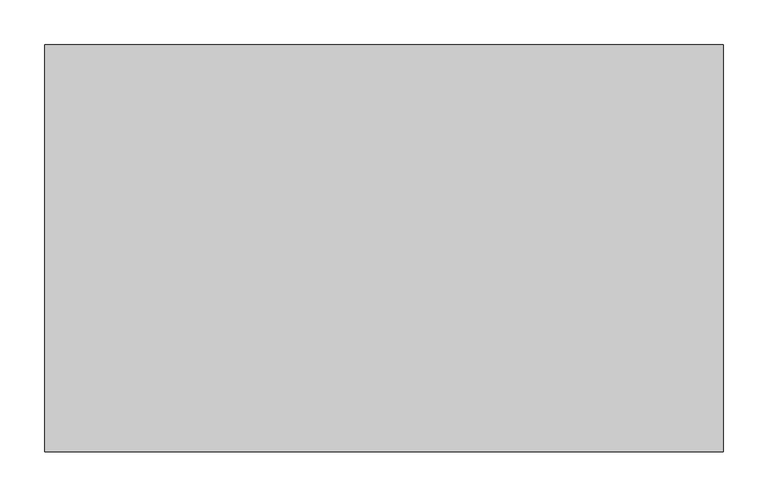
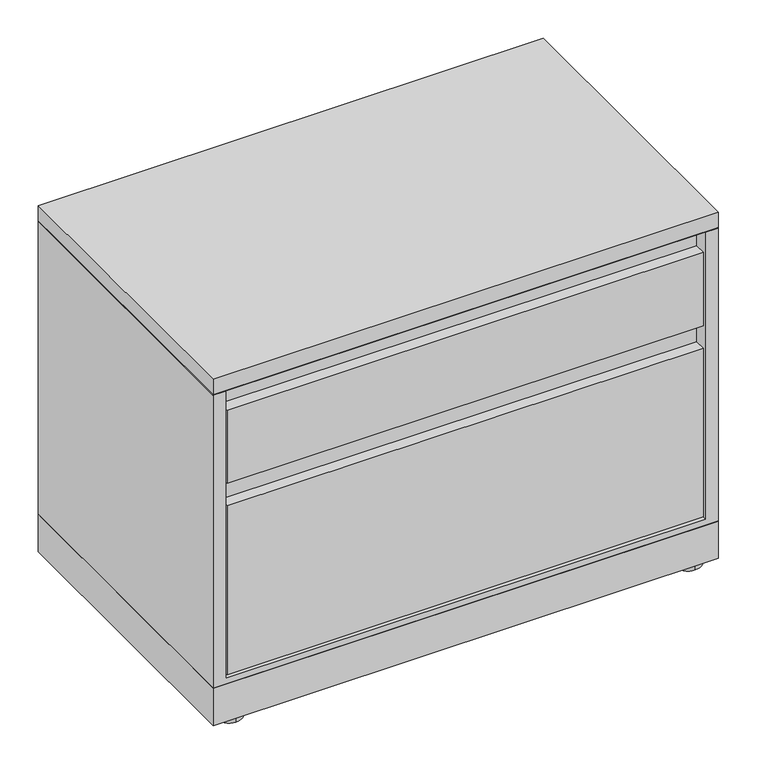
"""IFC4 building model written with IfcOpenShell, lengths in millimetres: furniture geometry, Steelcase - Universal Storage - Lateral File - 1.5 High - Flush Steel : Drawer/Drawer - 18D x 30W."""

from ifc_helpers import new_model, si_unit, point, frame, frame_2d, origin, origin_with_axes, place, context, project, spatial, polyline, circle_curve, trimmed, segment, composite_curve, outline, extrude, faceted_brep, source, transform, mapped, element, save


def furniture_6bb9b847(model_context):
    return source(origin(), model_context, "Body", "SolidModel", [
        extrude(outline(polyline([(762.0, 457.2), (762.0, 0.0), (0.0, 0.0), (0.0, 457.2), (762.0, 457.2)])), frame((0.0, 0.0, 6.3500002), z_axis=(0.0, 0.0, 1.0), x_axis=(1.0, 0.0, 0.0)), (0.0, 0.0, 1.0), 59.6899998),
        extrude(outline(composite_curve([segment(trimmed(circle_curve(frame_2d((727.3290058, 434.8633666)), 20.32), [point((727.3290058, 414.5433666))], [point((727.3290058, 455.1833666))], False, "CARTESIAN"), True, "CONTINUOUS"), segment(trimmed(circle_curve(frame_2d((727.3290058, 434.8633666)), 20.32), [point((727.3290058, 455.1833666))], [point((727.3290058, 414.5433666))], False, "CARTESIAN"), True, "CONTINUOUS")], self_intersect=False)), origin_with_axes(), (0.0, 0.0, 1.0), 6.3500002),
        extrude(outline(composite_curve([segment(trimmed(circle_curve(frame_2d((727.3290058, 20.7491455)), 20.32), [point((727.3290058, 0.4291455))], [point((727.3290058, 41.0691455))], False, "CARTESIAN"), True, "CONTINUOUS"), segment(trimmed(circle_curve(frame_2d((727.3290058, 20.7491455)), 20.32), [point((727.3290058, 41.0691455))], [point((727.3290058, 0.4291455))], False, "CARTESIAN"), True, "CONTINUOUS")], self_intersect=False)), origin_with_axes(), (0.0, 0.0, 1.0), 6.3500002),
        extrude(outline(composite_curve([segment(trimmed(circle_curve(frame_2d((34.29, 434.8633666)), 20.32), [point((34.29, 455.1833666))], [point((34.29, 414.5433666))], False, "CARTESIAN"), True, "CONTINUOUS"), segment(trimmed(circle_curve(frame_2d((34.29, 434.8633666)), 20.32), [point((34.29, 414.5433666))], [point((34.29, 455.1833666))], False, "CARTESIAN"), True, "CONTINUOUS")], self_intersect=False)), origin_with_axes(), (0.0, 0.0, 1.0), 6.3500002),
        extrude(outline(composite_curve([segment(trimmed(circle_curve(frame_2d((34.29, 20.7491455)), 20.32), [point((34.29, 41.0691455))], [point((34.29, 0.4291455))], False, "CARTESIAN"), True, "CONTINUOUS"), segment(trimmed(circle_curve(frame_2d((34.29, 20.7491455)), 20.32), [point((34.29, 0.4291455))], [point((34.29, 41.0691455))], False, "CARTESIAN"), True, "CONTINUOUS")], self_intersect=False)), origin_with_axes(), (0.0, 0.0, 1.0), 6.3500002),
        extrude(outline(polyline([(437.7944128, 396.7988176), (437.7944128, 410.7687861), (440.969412, 410.7687861), (440.969412, 371.5257963), (26.822418, 371.5257963), (26.822418, 396.7988176), (437.7944128, 396.7988176)])), frame((22.0472, 0.0, 0.0), z_axis=(1.0, 0.0, 0.0), x_axis=(0.0, 1.0, 0.0)), (0.0, 0.0, 1.0), 717.9056),
        extrude(outline(polyline([(1.45e-05, 534.0350121), (457.2, 534.0350121), (456.4379879, 533.273), (0.7620266, 533.273), (1.45e-05, 534.0350121)])), frame((0.0, 0.0, 0.0), z_axis=(1.0, 0.0, 0.0), x_axis=(0.0, 1.0, 0.0)), (0.0, 0.0, 1.0), 762.0),
        extrude(outline(polyline([(762.0, 457.2), (762.0, 0.0), (0.0, 0.0), (0.0, 457.2), (762.0, 457.2)])), frame((0.0, 0.0, 534.0350121), z_axis=(0.0, 0.0, 1.0), x_axis=(1.0, 0.0, 0.0)), (0.0, 0.0, 1.0), 24.6379729),
        faceted_brep([(762.0, 0.0, 66.04), (762.0, 457.2, 66.04), (762.0, 457.2, 533.273), (762.0, 0.0, 533.273), (0.0, 0.0, 533.273), (0.0, 457.2, 533.273), (0.0, 457.2, 66.04), (0.0, 0.0, 66.04), (742.95, 0.0, 533.273), (742.95, 0.0, 75.1586), (19.05, 0.0, 75.1586), (19.05, 0.0, 533.273), (19.05, 454.0249999, 533.273), (742.95, 454.0249999, 533.273), (19.05, 454.0249999, 75.1586), (742.95, 454.0249999, 75.1586)], [[[0, 1, 2, 3]], [[4, 5, 6, 7]], [[0, 3, 8, 9, 10, 11, 4, 7]], [[2, 1, 6, 5]], [[3, 2, 5, 4, 11, 12, 13, 8]], [[12, 14, 15, 13]], [[14, 12, 11, 10]], [[13, 15, 9, 8]], [[1, 0, 7, 6]], [[10, 9, 15, 14]]]),
        extrude(outline(polyline([(23.6541043, 79.2988025), (1.5178885, 79.2988025), (1.5178885, 348.1577823), (19.3741023, 348.1577823), (19.3741023, 378.7648167), (23.6541043, 378.7648167), (23.6541043, 79.2988025)])), frame((22.0472, 0.0, 0.0), z_axis=(1.0, 0.0, 0.0), x_axis=(0.0, 1.0, 0.0)), (0.0, 0.0, 1.0), 717.9056),
        extrude(outline(polyline([(23.6541043, 384.1241916), (1.5178885, 384.1241916), (1.5178885, 501.1928089), (19.3741023, 501.1928089), (19.3741023, 531.799807), (23.6541043, 531.799807), (23.6541043, 384.1241916)])), frame((22.0472, 0.0, 0.0), z_axis=(1.0, 0.0, 0.0), x_axis=(0.0, 1.0, 0.0)), (0.0, 0.0, 1.0), 717.9056),
    ])


if __name__ == "__main__":
    model = new_model("IFC4")
    model_context = context("Model", 3, world=origin())
    ifc_project = project(units=[si_unit("LENGTHUNIT", "METRE", prefix="MILLI")], contexts=[model_context])
    site = spatial("IfcSite", under=ifc_project)
    building = spatial("IfcBuilding", under=site)
    placement = place(None, origin())
    furniture_shape = furniture_6bb9b847(model_context)
    element("IfcFurniture", 1, ObjectType="Steelcase - Universal Storage - Lateral File - 1.5 High - Flush Steel : Drawer/Drawer - 18D x 30W", at=placement, inside=building, context=model_context, shape_type="MappedRepresentation", body=[
        mapped(furniture_shape, transform((0.0, 0.0, 0.0), x_axis=(1.0, 0.0, 0.0), y_axis=(0.0, 1.0, 0.0), z_axis=(0.0, 0.0, 1.0))),
    ])
    save(model, "model.ifc")
